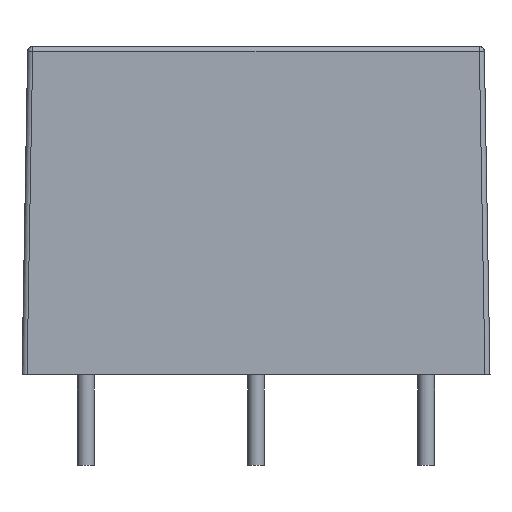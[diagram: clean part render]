
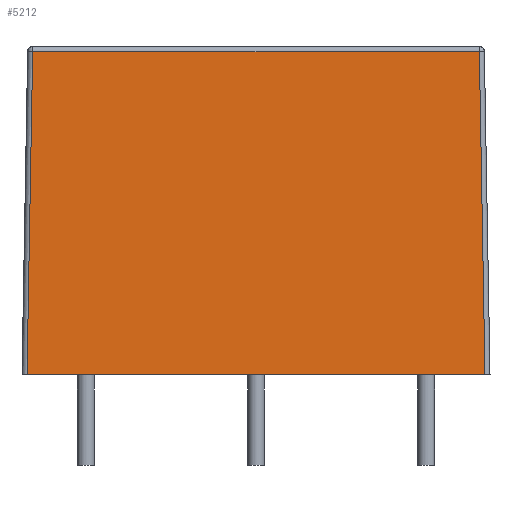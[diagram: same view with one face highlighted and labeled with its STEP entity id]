
A CAD part, left-side view. The second image highlights one B-rep face of the part: STEP entity #5212.
In plain terms, the highlighted planar face has unit normal (-1, 0, 0.018) as drawn and (-1, 0.017, 0) by its records, which use the part's own axes.
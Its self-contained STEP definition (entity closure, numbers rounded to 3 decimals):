
#423 = VERTEX_POINT ( 'NONE', #7572 ) ;
#573 = LINE ( 'NONE', #16657, #3324 ) ;
#759 = EDGE_CURVE ( 'NONE', #11818, #423, #2994, .T. ) ;
#1796 = PLANE ( 'NONE',  #2741 ) ;
#2573 = DIRECTION ( 'NONE',  ( 0., 0., 1. ) ) ;
#2741 = AXIS2_PLACEMENT_3D ( 'NONE', #11220, #16569, #4519 ) ;
#2994 = LINE ( 'NONE', #12409, #4610 ) ;
#3324 = VECTOR ( 'NONE', #4342, 1000. ) ;
#3644 = VERTEX_POINT ( 'NONE', #16594 ) ;
#3880 = VECTOR ( 'NONE', #2573, 1000. ) ;
#4169 = ORIENTED_EDGE ( 'NONE', *, *, #759, .T. ) ;
#4342 = DIRECTION ( 'NONE',  ( -0.017, -1., -0.017 ) ) ;
#4519 = DIRECTION ( 'NONE',  ( -0.017, -1., 0. ) ) ;
#4610 = VECTOR ( 'NONE', #5813, 1000. ) ;
#5212 = ADVANCED_FACE ( 'NONE', ( #11301 ), #1796, .T. ) ;
#5753 = CARTESIAN_POINT ( 'NONE',  ( -20.32, 0., -13.67 ) ) ;
#5813 = DIRECTION ( 'NONE',  ( 0.017, 1., -0.017 ) ) ;
#5968 = EDGE_CURVE ( 'NONE', #3644, #16035, #573, .T. ) ;
#6150 = EDGE_CURVE ( 'NONE', #16035, #11818, #12008, .T. ) ;
#6423 = EDGE_CURVE ( 'NONE', #423, #3644, #16891, .T. ) ;
#7317 = DIRECTION ( 'NONE',  ( 0., 0., -1. ) ) ;
#7572 = CARTESIAN_POINT ( 'NONE',  ( -19.983, 19.305, 13.333 ) ) ;
#8640 = CARTESIAN_POINT ( 'NONE',  ( -19.983, 19.305, 13.97 ) ) ;
#8951 = CARTESIAN_POINT ( 'NONE',  ( -20.32, 0., 13.67 ) ) ;
#10902 = EDGE_LOOP ( 'NONE', ( #12388, #4169, #16754, #15986 ) ) ;
#11220 = CARTESIAN_POINT ( 'NONE',  ( -20.32, 0., 13.97 ) ) ;
#11301 = FACE_OUTER_BOUND ( 'NONE', #10902, .T. ) ;
#11818 = VERTEX_POINT ( 'NONE', #8951 ) ;
#12008 = LINE ( 'NONE', #14634, #3880 ) ;
#12388 = ORIENTED_EDGE ( 'NONE', *, *, #6150, .T. ) ;
#12409 = CARTESIAN_POINT ( 'NONE',  ( -20.32, -0.005, 13.67 ) ) ;
#14634 = CARTESIAN_POINT ( 'NONE',  ( -20.32, 0., 13.97 ) ) ;
#15986 = ORIENTED_EDGE ( 'NONE', *, *, #5968, .T. ) ;
#16035 = VERTEX_POINT ( 'NONE', #5753 ) ;
#16536 = VECTOR ( 'NONE', #7317, 1000. ) ;
#16569 = DIRECTION ( 'NONE',  ( -1., 0.017, 0. ) ) ;
#16594 = CARTESIAN_POINT ( 'NONE',  ( -19.983, 19.305, -13.333 ) ) ;
#16657 = CARTESIAN_POINT ( 'NONE',  ( -20.312, 0.482, -13.662 ) ) ;
#16754 = ORIENTED_EDGE ( 'NONE', *, *, #6423, .T. ) ;
#16891 = LINE ( 'NONE', #8640, #16536 ) ;
